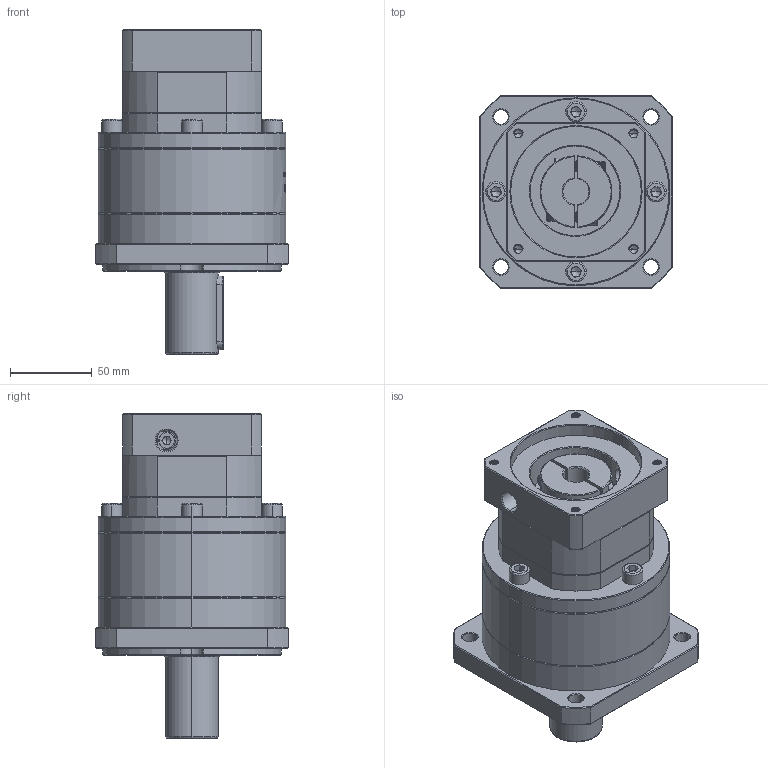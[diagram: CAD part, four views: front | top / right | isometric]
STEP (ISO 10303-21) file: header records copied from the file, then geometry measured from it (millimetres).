
FILE_DESCRIPTION (( 'STEP AP214' ), '1' );
FILE_NAME ('ZF120A-D32-L2-16-80-100-M6.step', '2023-03-07T15:02:03', ( '' ), ( 'Microsoft' ), 'SwSTEP 2.0', 'SolidWorks 2016', '' );
FILE_SCHEMA (( 'AUTOMOTIVE_DESIGN' ));
Length unit declared in the file: millimetre
Products named in the file (1): ZF120A-D32-L2-16-80-100-M6
Bounding box: 118 x 118 x 199 mm (x, y, z)
Volume: 1283463.3 mm3; surface area: 128058.1 mm2
Topology: 5 solids, 6 shells, 1936 faces, 5066 edges, 3222 vertices
Faces by surface type: plane 887, cylinder 402, bspline 321, cone 311, torus 15
Entity records: 105282 total; most frequent: CARTESIAN_POINT 40218, ORIENTED_EDGE 10072, DIRECTION 7762, EDGE_CURVE 5036, VERTEX_POINT 3222, LINE 2748, VECTOR 2748, AXIS2_PLACEMENT_3D 2507
